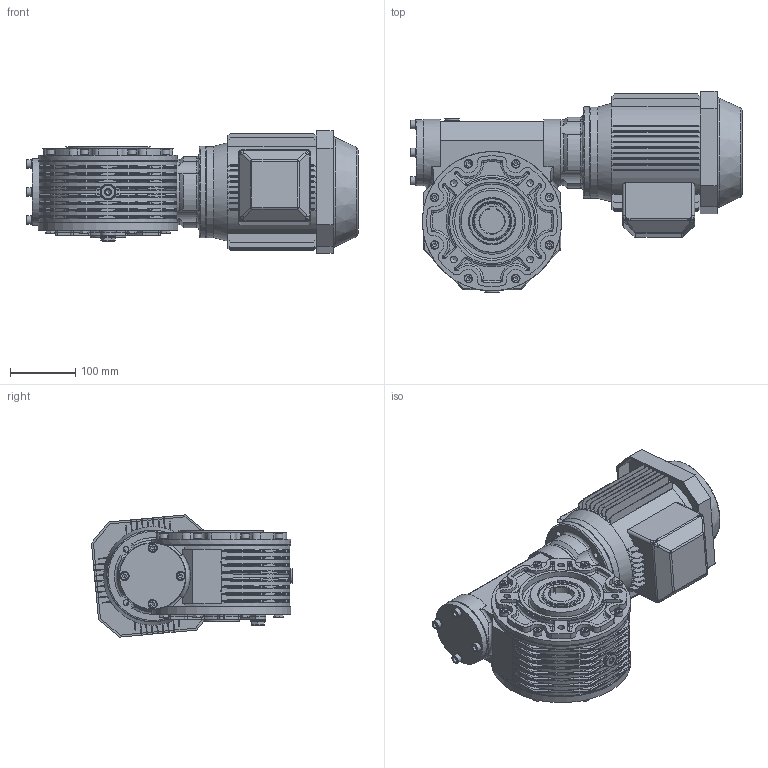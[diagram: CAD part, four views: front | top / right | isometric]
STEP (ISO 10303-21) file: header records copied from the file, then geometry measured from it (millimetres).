
FILE_DESCRIPTION((''),'2;1');
FILE_NAME('Y:\Archivi Inventor\Prog_01\GRAND_50\complessivi\Figurini\MRV50 sito\90s\mrv50_FP2_90S_B14.stp','2013-02-08T10:29:28',('tech3'),(''),'Autodesk Inventor 2013','Autodesk Inventor 2013','');
FILE_SCHEMA(('AUTOMOTIVE_DESIGN { 1 0 10303 214 1 1 1 1 }'));
Length unit declared in the file: millimetre
Products named in the file (20): mrv50_90s_90l_b14; mrv50_fig; Figurino_carcassa_MRV50; 0105028; 0105029; figurino_corona_MRV50; Guarnizione 3_8 GAS; Tappo 3_8 GAS_esagn_incsst; figurino_0105009; ISO 4017 M8 x 20; 55_70_8; fig_0105002; Tappo3_8 GAS; ISO 4762 M8 x 16; fig_0105004; UNI 6592 8.4 x 14; UNI 5931  M 8 x  25; 0105006; DIN EN ISO 4762 M8 x 25; motori B14 90S
Assembly tree (48 placements, depth 3):
  mrv50_90s_90l_b14
    mrv50_fig
      Figurino_carcassa_MRV50
      0105028  x2
      0105029  x2
      figurino_corona_MRV50
      Guarnizione 3_8 GAS  x3
      Tappo 3_8 GAS_esagn_incsst  x2
      figurino_0105009
      ISO 4017 M8 x 20  x8
      55_70_8  x2
      fig_0105002
      Tappo3_8 GAS
      ISO 4762 M8 x 16  x8
      fig_0105004
      UNI 6592 8.4 x 14  x4
      UNI 5931  M 8 x  25  x4
    0105006
    DIN EN ISO 4762 M8 x 25  x4
    motori B14 90S
Bounding box: 507.8 x 307.51 x 187.02 mm (x, y, z)
Volume: 10417367.9 mm3; surface area: 1049612 mm2
Topology: 59 solids, 61 shells, 2011 faces, 4880 edges, 2966 vertices
Faces by surface type: plane 791, cylinder 641, cone 192, torus 185, bspline 152, sphere 50
Full cylindrical faces by diameter (mm): 2 x2, 6.647 x28, 8 x26, 8.4 x4, 8.5 x48, 9 x4, 10.106 x4, 11.63 x8, 13 x20, 13.046 x1, 14 x8, 14.95 x3, 16.3 x3, 16.5 x2, 22 x6, 24 x3, 55 x1, 60 x1, 66.4 x2, 69 x2, 70 x6, 72 x4, 73 x2, 75 x1, 95 x2, 99.5 x2, 101 x1, 102 x2, 114.4 x1, 120 x1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
Entity records: 54554 total; most frequent: CARTESIAN_POINT 17604, DIRECTION 7724, ORIENTED_EDGE 6918, EDGE_CURVE 3459, AXIS2_PLACEMENT_3D 3086, VERTEX_POINT 2244, EDGE_LOOP 1983, CIRCLE 1577
